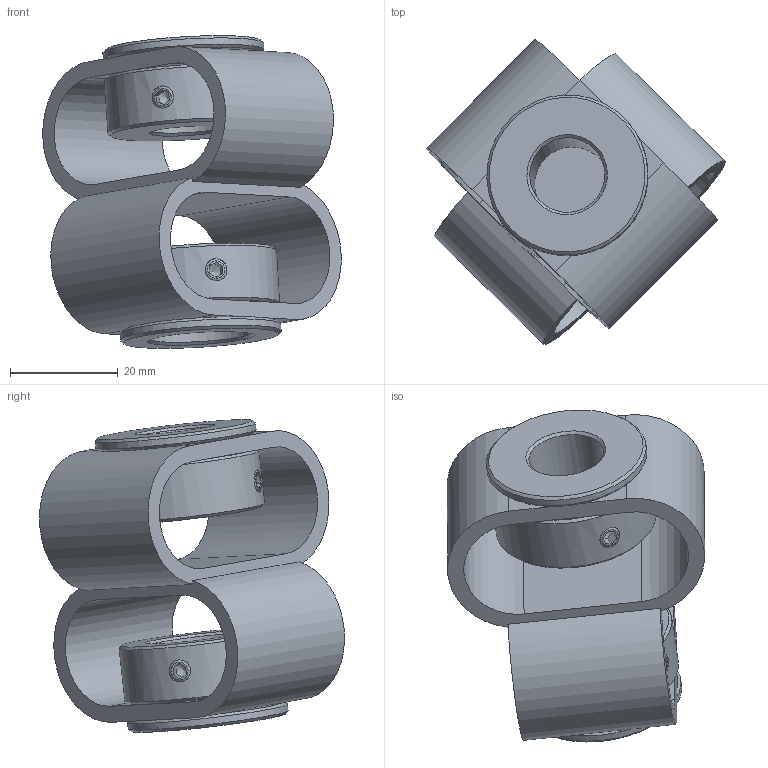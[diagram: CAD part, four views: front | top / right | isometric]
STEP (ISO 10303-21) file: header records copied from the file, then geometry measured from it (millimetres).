
FILE_DESCRIPTION(/* description */ (''),/* implementation_level */ '2;1');
FILE_NAME(/* name */ 'E:\ABP_bauteile\Doppelschlaufenkupplung\DKPS_5658\Doppelschlaufenkupplung_DKPS_5658_14_19.stp',/* time_stamp */ '2015-03-13T11:51:00+01:00',/* author */ ('Rob'),/* organization */ (''),/* preprocessor_version */ 'ST-DEVELOPER v15.6',/* originating_system */ 'Autodesk Inventor 2015',/* authorisation */ '');
FILE_SCHEMA (('CONFIG_CONTROL_DESIGN'));
Length unit declared in the file: millimetre
Products named in the file (1): Bauteil54
Bounding box: 55.53 x 56.74 x 58.16 mm (x, y, z)
Volume: 29631.3 mm3; surface area: 18048 mm2
Topology: 1 solids, 1 shells, 142 faces, 360 edges, 218 vertices
Faces by surface type: plane 84, cone 30, cylinder 28
Full cylindrical faces by diameter (mm): 4.134 x8, 14 x1, 19 x1, 21.5 x2, 23 x4, 30 x4
Entity records: 4088 total; most frequent: CARTESIAN_POINT 1027, DIRECTION 646, ORIENTED_EDGE 556, EDGE_CURVE 278, AXIS2_PLACEMENT_3D 257, EDGE_LOOP 210, VERTEX_POINT 182, FACE_OUTER_BOUND 142
